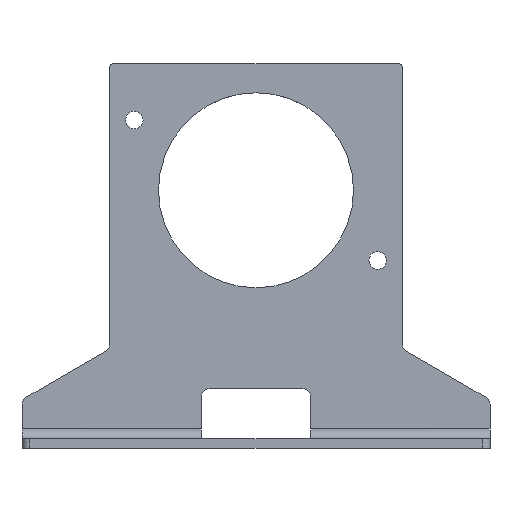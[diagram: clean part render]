
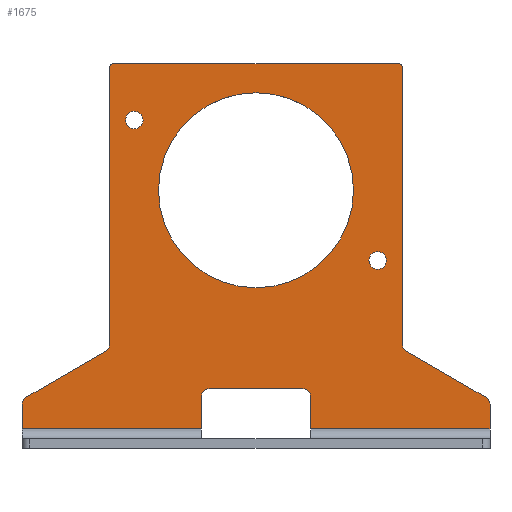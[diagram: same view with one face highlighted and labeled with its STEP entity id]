
A CAD part, top view. The second image highlights one B-rep face of the part: STEP entity #1675.
In plain terms, the highlighted planar face has unit normal (0, 0, 1).
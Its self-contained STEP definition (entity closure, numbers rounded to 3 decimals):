
#294=DIRECTION('',(1.,0.,0.));
#295=VECTOR('',#294,46.);
#296=CARTESIAN_POINT('',(0.,5.,2.5));
#297=LINE('',#296,#295);
#528=CARTESIAN_POINT('',(118.,11.345,2.5));
#529=DIRECTION('',(0.,0.,-1.));
#530=DIRECTION('',(0.5,0.866,0.));
#531=AXIS2_PLACEMENT_3D('',#528,#529,#530);
#533=DIRECTION('',(0.,-1.,0.));
#534=VECTOR('',#533,6.345);
#535=CARTESIAN_POINT('',(120.,11.345,2.5));
#536=LINE('',#535,#534);
#537=DIRECTION('',(0.,1.,0.));
#538=VECTOR('',#537,8.35);
#539=CARTESIAN_POINT('',(74.,5.,2.5));
#540=LINE('',#539,#538);
#541=CARTESIAN_POINT('',(72.,13.35,2.5));
#542=DIRECTION('',(0.,0.,1.));
#543=DIRECTION('',(1.,0.,0.));
#544=AXIS2_PLACEMENT_3D('',#541,#542,#543);
#546=CARTESIAN_POINT('',(48.,13.35,2.5));
#547=DIRECTION('',(0.,0.,1.));
#548=DIRECTION('',(0.,1.,0.));
#549=AXIS2_PLACEMENT_3D('',#546,#547,#548);
#551=DIRECTION('',(0.,-1.,0.));
#552=VECTOR('',#551,8.35);
#553=CARTESIAN_POINT('',(46.,13.35,2.5));
#554=LINE('',#553,#552);
#555=DIRECTION('',(0.,1.,0.));
#556=VECTOR('',#555,6.345);
#557=CARTESIAN_POINT('',(0.,5.,2.5));
#558=LINE('',#557,#556);
#559=CARTESIAN_POINT('',(2.,11.345,2.5));
#560=DIRECTION('',(0.,0.,-1.));
#561=DIRECTION('',(-1.,0.,0.));
#562=AXIS2_PLACEMENT_3D('',#559,#560,#561);
#564=DIRECTION('',(0.866,0.5,0.));
#565=VECTOR('',#564,23.671);
#566=CARTESIAN_POINT('',(1.,13.077,2.5));
#567=LINE('',#566,#565);
#568=CARTESIAN_POINT('',(20.5,26.645,2.5));
#569=DIRECTION('',(0.,0.,1.));
#570=DIRECTION('',(0.5,-0.866,0.));
#571=AXIS2_PLACEMENT_3D('',#568,#569,#570);
#573=DIRECTION('',(0.,1.,0.));
#574=VECTOR('',#573,71.055);
#575=CARTESIAN_POINT('',(22.5,26.645,2.5));
#576=LINE('',#575,#574);
#577=CARTESIAN_POINT('',(23.5,97.7,2.5));
#578=DIRECTION('',(0.,0.,-1.));
#579=DIRECTION('',(-1.,0.,0.));
#580=AXIS2_PLACEMENT_3D('',#577,#578,#579);
#582=DIRECTION('',(1.,0.,0.));
#583=VECTOR('',#582,73.);
#584=CARTESIAN_POINT('',(23.5,98.7,2.5));
#585=LINE('',#584,#583);
#586=CARTESIAN_POINT('',(96.5,97.7,2.5));
#587=DIRECTION('',(0.,0.,-1.));
#588=DIRECTION('',(0.,1.,0.));
#589=AXIS2_PLACEMENT_3D('',#586,#587,#588);
#591=DIRECTION('',(0.,-1.,0.));
#592=VECTOR('',#591,71.055);
#593=CARTESIAN_POINT('',(97.5,97.7,2.5));
#594=LINE('',#593,#592);
#595=CARTESIAN_POINT('',(99.5,26.645,2.5));
#596=DIRECTION('',(0.,0.,1.));
#597=DIRECTION('',(-1.,0.,0.));
#598=AXIS2_PLACEMENT_3D('',#595,#596,#597);
#600=DIRECTION('',(0.866,-0.5,0.));
#601=VECTOR('',#600,23.671);
#602=CARTESIAN_POINT('',(98.5,24.913,2.5));
#603=LINE('',#602,#601);
#604=CARTESIAN_POINT('',(60.,66.2,2.5));
#605=DIRECTION('',(0.,0.,1.));
#606=DIRECTION('',(-1.,0.,0.));
#607=AXIS2_PLACEMENT_3D('',#604,#605,#606);
#609=CARTESIAN_POINT('',(60.,66.2,2.5));
#610=DIRECTION('',(0.,0.,1.));
#611=DIRECTION('',(1.,0.,0.));
#612=AXIS2_PLACEMENT_3D('',#609,#610,#611);
#614=CARTESIAN_POINT('',(28.8,84.2,2.5));
#615=DIRECTION('',(0.,0.,1.));
#616=DIRECTION('',(-1.,0.,0.));
#617=AXIS2_PLACEMENT_3D('',#614,#615,#616);
#619=CARTESIAN_POINT('',(28.8,84.2,2.5));
#620=DIRECTION('',(0.,0.,1.));
#621=DIRECTION('',(1.,0.,0.));
#622=AXIS2_PLACEMENT_3D('',#619,#620,#621);
#624=CARTESIAN_POINT('',(91.2,48.2,2.5));
#625=DIRECTION('',(0.,0.,1.));
#626=DIRECTION('',(-1.,0.,0.));
#627=AXIS2_PLACEMENT_3D('',#624,#625,#626);
#629=CARTESIAN_POINT('',(91.2,48.2,2.5));
#630=DIRECTION('',(0.,0.,1.));
#631=DIRECTION('',(1.,0.,0.));
#632=AXIS2_PLACEMENT_3D('',#629,#630,#631);
#638=DIRECTION('',(1.,0.,0.));
#639=VECTOR('',#638,46.);
#640=CARTESIAN_POINT('',(74.,5.,2.5));
#641=LINE('',#640,#639);
#654=DIRECTION('',(1.,0.,0.));
#655=VECTOR('',#654,24.);
#656=CARTESIAN_POINT('',(48.,15.35,2.5));
#657=LINE('',#656,#655);
#750=CARTESIAN_POINT('',(120.,11.345,2.5));
#751=VERTEX_POINT('',#750);
#752=CARTESIAN_POINT('',(119.,13.077,2.5));
#753=VERTEX_POINT('',#752);
#754=CARTESIAN_POINT('',(120.,5.,2.5));
#755=VERTEX_POINT('',#754);
#765=CARTESIAN_POINT('',(74.,5.,2.5));
#766=VERTEX_POINT('',#765);
#827=CARTESIAN_POINT('',(46.,5.,2.5));
#828=VERTEX_POINT('',#827);
#829=CARTESIAN_POINT('',(0.,5.,2.5));
#830=VERTEX_POINT('',#829);
#855=CARTESIAN_POINT('',(0.,11.345,2.5));
#856=VERTEX_POINT('',#855);
#857=CARTESIAN_POINT('',(1.,13.077,2.5));
#858=VERTEX_POINT('',#857);
#859=CARTESIAN_POINT('',(21.5,24.913,2.5));
#860=VERTEX_POINT('',#859);
#861=CARTESIAN_POINT('',(22.5,26.645,2.5));
#862=VERTEX_POINT('',#861);
#863=CARTESIAN_POINT('',(22.5,97.7,2.5));
#864=VERTEX_POINT('',#863);
#865=CARTESIAN_POINT('',(23.5,98.7,2.5));
#866=VERTEX_POINT('',#865);
#867=CARTESIAN_POINT('',(96.5,98.7,2.5));
#868=VERTEX_POINT('',#867);
#869=CARTESIAN_POINT('',(97.5,97.7,2.5));
#870=VERTEX_POINT('',#869);
#871=CARTESIAN_POINT('',(97.5,26.645,2.5));
#872=VERTEX_POINT('',#871);
#873=CARTESIAN_POINT('',(98.5,24.913,2.5));
#874=VERTEX_POINT('',#873);
#875=CARTESIAN_POINT('',(74.,13.35,2.5));
#876=VERTEX_POINT('',#875);
#877=CARTESIAN_POINT('',(72.,15.35,2.5));
#878=VERTEX_POINT('',#877);
#879=CARTESIAN_POINT('',(48.,15.35,2.5));
#880=VERTEX_POINT('',#879);
#881=CARTESIAN_POINT('',(46.,13.35,2.5));
#882=VERTEX_POINT('',#881);
#883=CARTESIAN_POINT('',(35.,66.2,2.5));
#884=CARTESIAN_POINT('',(85.,66.2,2.5));
#885=VERTEX_POINT('',#883);
#886=VERTEX_POINT('',#884);
#887=CARTESIAN_POINT('',(26.55,84.2,2.5));
#888=CARTESIAN_POINT('',(31.05,84.2,2.5));
#889=VERTEX_POINT('',#887);
#890=VERTEX_POINT('',#888);
#891=CARTESIAN_POINT('',(88.95,48.2,2.5));
#892=CARTESIAN_POINT('',(93.45,48.2,2.5));
#893=VERTEX_POINT('',#891);
#894=VERTEX_POINT('',#892);
#1624=CARTESIAN_POINT('',(60.,0.,2.5));
#1625=DIRECTION('',(0.,0.,-1.));
#1626=DIRECTION('',(-1.,0.,0.));
#1627=AXIS2_PLACEMENT_3D('',#1624,#1625,#1626);
#1628=PLANE('',#1627);
#1629=ORIENTED_EDGE('',*,*,#969,.T.);
#1630=ORIENTED_EDGE('',*,*,#985,.T.);
#1632=ORIENTED_EDGE('',*,*,#1631,.F.);
#1634=ORIENTED_EDGE('',*,*,#1633,.T.);
#1636=ORIENTED_EDGE('',*,*,#1635,.T.);
#1638=ORIENTED_EDGE('',*,*,#1637,.F.);
#1640=ORIENTED_EDGE('',*,*,#1639,.T.);
#1642=ORIENTED_EDGE('',*,*,#1641,.T.);
#1643=ORIENTED_EDGE('',*,*,#1223,.F.);
#1644=ORIENTED_EDGE('',*,*,#1478,.T.);
#1645=ORIENTED_EDGE('',*,*,#1493,.T.);
#1646=ORIENTED_EDGE('',*,*,#1508,.T.);
#1647=ORIENTED_EDGE('',*,*,#1522,.T.);
#1648=ORIENTED_EDGE('',*,*,#1536,.T.);
#1649=ORIENTED_EDGE('',*,*,#1549,.T.);
#1650=ORIENTED_EDGE('',*,*,#1564,.T.);
#1651=ORIENTED_EDGE('',*,*,#1577,.T.);
#1652=ORIENTED_EDGE('',*,*,#1590,.T.);
#1653=ORIENTED_EDGE('',*,*,#1606,.T.);
#1654=ORIENTED_EDGE('',*,*,#1617,.T.);
#1655=EDGE_LOOP('',(#1629,#1630,#1632,#1634,#1636,#1638,#1640,#1642,#1643,#1644,
#1645,#1646,#1647,#1648,#1649,#1650,#1651,#1652,#1653,#1654));
#1656=FACE_OUTER_BOUND('',#1655,.F.);
#1658=ORIENTED_EDGE('',*,*,#1657,.T.);
#1660=ORIENTED_EDGE('',*,*,#1659,.T.);
#1661=EDGE_LOOP('',(#1658,#1660));
#1662=FACE_BOUND('',#1661,.F.);
#1664=ORIENTED_EDGE('',*,*,#1663,.T.);
#1666=ORIENTED_EDGE('',*,*,#1665,.T.);
#1667=EDGE_LOOP('',(#1664,#1666));
#1668=FACE_BOUND('',#1667,.F.);
#1670=ORIENTED_EDGE('',*,*,#1669,.T.);
#1672=ORIENTED_EDGE('',*,*,#1671,.T.);
#1673=EDGE_LOOP('',(#1670,#1672));
#1674=FACE_BOUND('',#1673,.F.);
#532=CIRCLE('',#531,2.);
#545=CIRCLE('',#544,2.);
#550=CIRCLE('',#549,2.);
#563=CIRCLE('',#562,2.);
#572=CIRCLE('',#571,2.);
#581=CIRCLE('',#580,1.);
#590=CIRCLE('',#589,1.);
#599=CIRCLE('',#598,2.);
#608=CIRCLE('',#607,25.);
#613=CIRCLE('',#612,25.);
#618=CIRCLE('',#617,2.25);
#623=CIRCLE('',#622,2.25);
#628=CIRCLE('',#627,2.25);
#633=CIRCLE('',#632,2.25);
#969=EDGE_CURVE('',#753,#751,#532,.T.);
#985=EDGE_CURVE('',#751,#755,#536,.T.);
#1223=EDGE_CURVE('',#830,#828,#297,.T.);
#1478=EDGE_CURVE('',#830,#856,#558,.T.);
#1493=EDGE_CURVE('',#856,#858,#563,.T.);
#1508=EDGE_CURVE('',#858,#860,#567,.T.);
#1522=EDGE_CURVE('',#860,#862,#572,.T.);
#1536=EDGE_CURVE('',#862,#864,#576,.T.);
#1549=EDGE_CURVE('',#864,#866,#581,.T.);
#1564=EDGE_CURVE('',#866,#868,#585,.T.);
#1577=EDGE_CURVE('',#868,#870,#590,.T.);
#1590=EDGE_CURVE('',#870,#872,#594,.T.);
#1606=EDGE_CURVE('',#872,#874,#599,.T.);
#1617=EDGE_CURVE('',#874,#753,#603,.T.);
#1631=EDGE_CURVE('',#766,#755,#641,.T.);
#1633=EDGE_CURVE('',#766,#876,#540,.T.);
#1635=EDGE_CURVE('',#876,#878,#545,.T.);
#1637=EDGE_CURVE('',#880,#878,#657,.T.);
#1639=EDGE_CURVE('',#880,#882,#550,.T.);
#1641=EDGE_CURVE('',#882,#828,#554,.T.);
#1657=EDGE_CURVE('',#885,#886,#608,.T.);
#1659=EDGE_CURVE('',#886,#885,#613,.T.);
#1663=EDGE_CURVE('',#889,#890,#618,.T.);
#1665=EDGE_CURVE('',#890,#889,#623,.T.);
#1669=EDGE_CURVE('',#893,#894,#628,.T.);
#1671=EDGE_CURVE('',#894,#893,#633,.T.);
#1675=ADVANCED_FACE('',(#1656,#1662,#1668,#1674),#1628,.F.);
